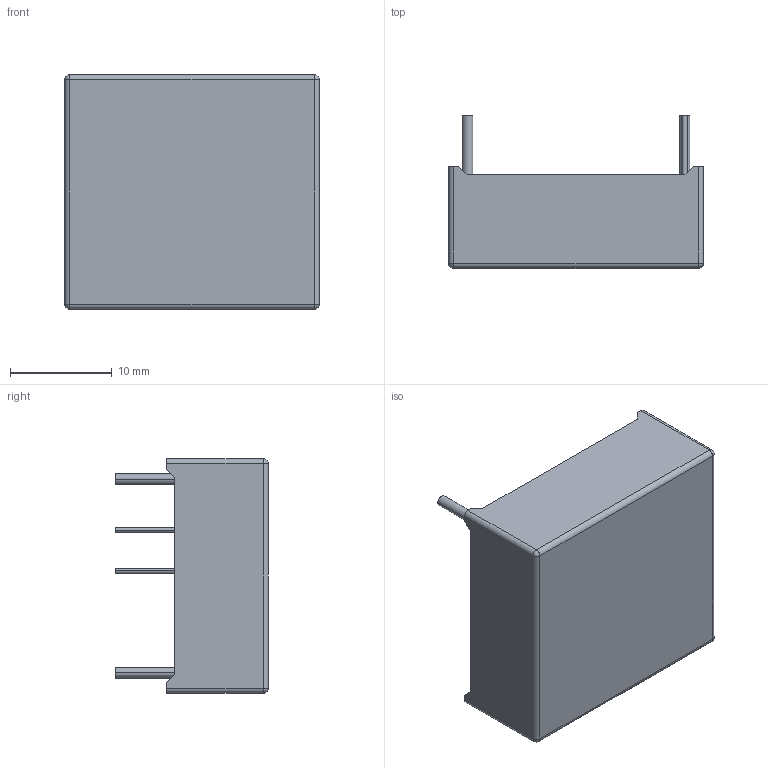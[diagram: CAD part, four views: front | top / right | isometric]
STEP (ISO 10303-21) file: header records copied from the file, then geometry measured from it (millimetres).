
FILE_DESCRIPTION((''),'2;1');
FILE_NAME('TFMOV20S151L-3-001','2020-08-11T',('SET-01114'),(''),'PRO/ENGINEER BY PARAMETRIC TECHNOLOGY CORPORATION, 2012310','PRO/ENGINEER BY PARAMETRIC TECHNOLOGY CORPORATION, 2012310','');
FILE_SCHEMA(('CONFIG_CONTROL_DESIGN','SHAPE_APPEARANCE_LAYERS_GROUPS'));
Length unit declared in the file: millimetre
Products named in the file (1): TFMOV20S151L-3-001
Bounding box: 25 x 15 x 23 mm (x, y, z)
Volume: 1833.4 mm3; surface area: 3678 mm2
Topology: 1 solids, 2 shells, 108 faces, 276 edges, 168 vertices
Faces by surface type: plane 60, cylinder 32, sphere 16
Entity records: 4025 total; most frequent: CARTESIAN_POINT 593, DIRECTION 552, ORIENTED_EDGE 520, PRESENTATION_STYLE_ASSIGNMENT 261, STYLED_ITEM 261, CURVE_STYLE 260, EDGE_CURVE 260, AXIS2_PLACEMENT_3D 188
